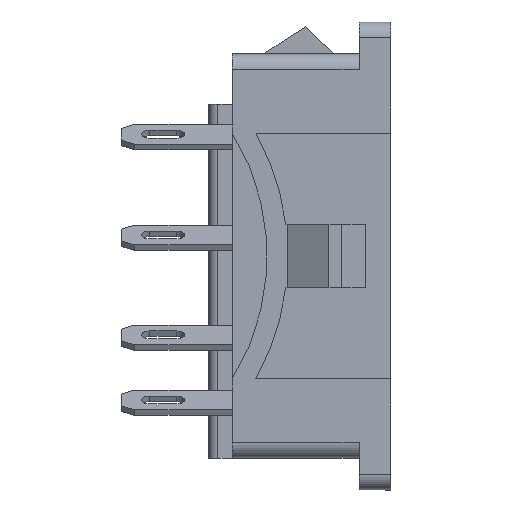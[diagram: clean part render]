
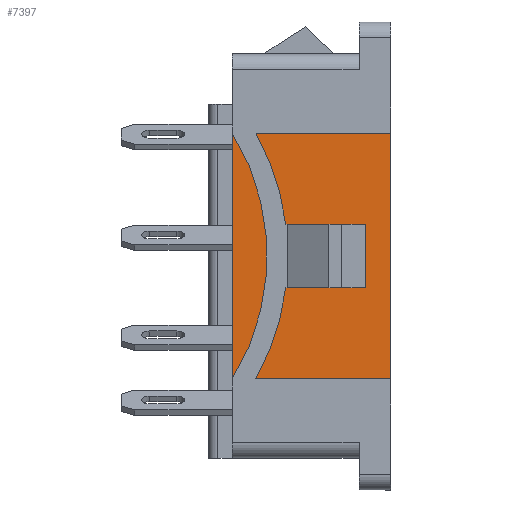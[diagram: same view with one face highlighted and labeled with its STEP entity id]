
A CAD part, left-side view. The second image highlights one B-rep face of the part: STEP entity #7397.
In plain terms, the highlighted planar face has unit normal (-1, 0, 0).
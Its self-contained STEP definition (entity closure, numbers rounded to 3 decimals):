
#361=FACE_OUTER_BOUND('',#765,.T.);
#765=EDGE_LOOP('',(#5495,#5496,#5497,#5498));
#1088=LINE('',#10283,#2060);
#1267=LINE('',#10666,#2239);
#1437=LINE('',#11024,#2409);
#1444=LINE('',#11038,#2416);
#2060=VECTOR('',#8263,15.5);
#2239=VECTOR('',#8554,15.5);
#2409=VECTOR('',#8808,10.);
#2416=VECTOR('',#8827,10.);
#3030=VERTEX_POINT('',#10280);
#3031=VERTEX_POINT('',#10282);
#3178=VERTEX_POINT('',#10663);
#3179=VERTEX_POINT('',#10665);
#3747=EDGE_CURVE('',#3030,#3031,#1088,.T.);
#3941=EDGE_CURVE('',#3178,#3179,#1267,.T.);
#4123=EDGE_CURVE('',#3179,#3030,#1437,.T.);
#4130=EDGE_CURVE('',#3178,#3031,#1444,.T.);
#5495=ORIENTED_EDGE('',*,*,#3747,.F.);
#5496=ORIENTED_EDGE('',*,*,#4123,.F.);
#5497=ORIENTED_EDGE('',*,*,#3941,.F.);
#5498=ORIENTED_EDGE('',*,*,#4130,.T.);
#7061=PLANE('',#7813);
#7397=ADVANCED_FACE('',(#361),#7061,.F.);
#7813=AXIS2_PLACEMENT_3D('',#11050,#8841,#8842);
#8263=DIRECTION('',(0.,0.,1.));
#8554=DIRECTION('',(0.,0.,-1.));
#8808=DIRECTION('',(0.,1.,0.));
#8827=DIRECTION('',(0.,1.,0.));
#8841=DIRECTION('center_axis',(1.,0.,0.));
#8842=DIRECTION('ref_axis',(0.,0.,1.));
#10280=CARTESIAN_POINT('',(-8.75,10.,-7.75));
#10282=CARTESIAN_POINT('',(-8.75,10.,7.75));
#10283=CARTESIAN_POINT('',(-8.75,10.,3.85));
#10663=CARTESIAN_POINT('',(-8.75,0.,7.75));
#10665=CARTESIAN_POINT('',(-8.75,0.,-7.75));
#10666=CARTESIAN_POINT('',(-8.75,0.,3.875));
#11024=CARTESIAN_POINT('',(-8.75,0.,-7.75));
#11038=CARTESIAN_POINT('',(-8.75,0.,7.75));
#11050=CARTESIAN_POINT('Origin',(-8.75,11.5,-1.));
